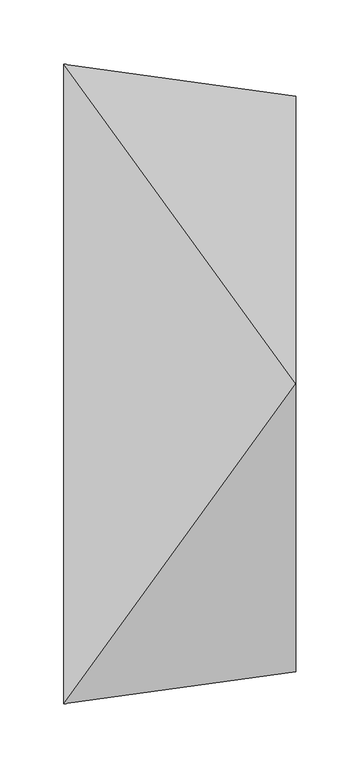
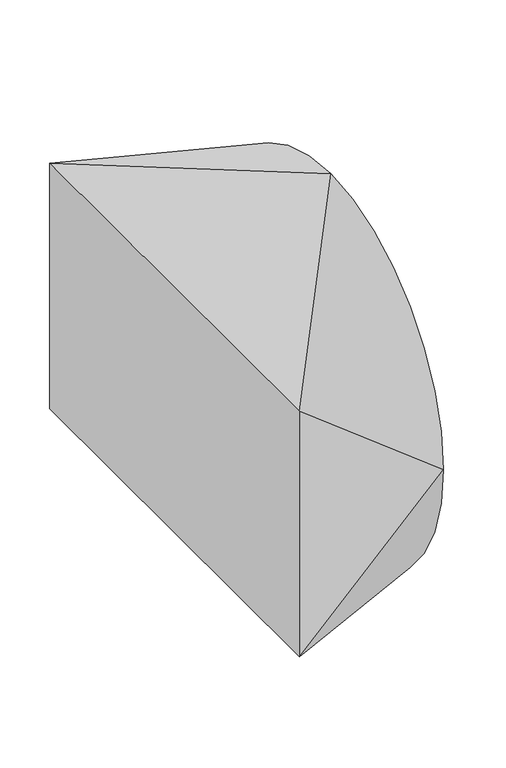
"""IFC4 building model written with IfcOpenShell, lengths in millimetres: duct fitting geometry, M_Transición de rectangular a redondo - Ángulo : EXT_45 graus."""

import ifcopenshell
import ifcopenshell.guid

model = None  # the IFC model being written
_history = None  # IfcOwnerHistory: only IFC2X3 demands one
_inside = {}  # id of a spatial element -> (the spatial element, [elements in it])
_under = {}  # id of a project, library or spatial element -> (it, [spatial elements below it])
_declared = {}  # id of a project -> (the project, [libraries it declares])
_typed = {}  # id of a type object -> (the type object, [elements of that type])
_made_of = {}  # id of a material, layer set ... -> (it, [elements and type objects made of it])


def new_model(schema):
    """Start an empty IFC model of exactly this schema.

    Asked for "IFC4X3", IfcOpenShell would pick the latest addendum, in which some entities
    have other attributes; the version numbers below select the first issue.
    IFC2X3 requires an IfcOwnerHistory on every rooted entity: one is made here for all.
    """
    global model, _history
    if schema == "IFC4X3":
        model = ifcopenshell.file(schema_version=(4, 3, 0, 0))
    else:
        model = ifcopenshell.file(schema=schema)
    _inside.clear()
    _under.clear()
    _declared.clear()
    _typed.clear()
    _made_of.clear()
    _history = None
    if model.schema == "IFC2X3":
        org = make("IfcOrganization", Name="unknown")
        user = make(
            "IfcPersonAndOrganization",
            ThePerson=make("IfcPerson", FamilyName="unknown"),
            TheOrganization=org,
        )
        app = make(
            "IfcApplication",
            ApplicationDeveloper=org,
            Version="unknown",
            ApplicationFullName="unknown",
            ApplicationIdentifier="unknown",
        )
        _history = make(
            "IfcOwnerHistory",
            OwningUser=user,
            OwningApplication=app,
            ChangeAction="ADDED",
            CreationDate=0,
        )
    return model


def make(cls, **values):
    """One entity of the class cls with the attributes given. An attribute that is None is left unset."""
    return model.create_entity(
        cls, **{name: value for name, value in values.items() if value is not None}
    )


def rooted(cls, **values):
    """An entity with a GlobalId (a new one), such as an element, a storey or a relation."""
    return make(cls, GlobalId=ifcopenshell.guid.new(), OwnerHistory=_history, **values)


def si_unit(unit_type, name, prefix=None):
    """IfcSIUnit, for example si_unit("LENGTHUNIT", "METRE", prefix="MILLI")."""
    return make("IfcSIUnit", UnitType=unit_type, Prefix=prefix, Name=name)


def assignment(units):
    """IfcUnitAssignment: the units of a project."""
    return None if units is None else make("IfcUnitAssignment", Units=units)


def point(xyz):
    """IfcCartesianPoint."""
    return None if xyz is None else make("IfcCartesianPoint", Coordinates=xyz)


def direction(xyz):
    """IfcDirection."""
    return None if xyz is None else make("IfcDirection", DirectionRatios=xyz)


def frame(location, z_axis=None, x_axis=None):
    """IfcAxis2Placement3D, a coordinate frame: its origin and axes. An axis left out is left unset."""
    return make(
        "IfcAxis2Placement3D",
        Location=point(location),
        Axis=direction(z_axis),
        RefDirection=direction(x_axis),
    )


def origin():
    """The frame at (0, 0, 0) with its axes left unset."""
    return frame((0.0, 0.0, 0.0))


def place(relative_to, where):
    """IfcLocalPlacement: puts the frame where relative to a parent placement (None: the world)."""
    return make(
        "IfcLocalPlacement", PlacementRelTo=relative_to, RelativePlacement=where
    )


def context(
    kind, dimensions, precision=None, world=None, true_north=None, identifier=None
):
    """IfcGeometricRepresentationContext, for example the 3D "Model" context."""
    return make(
        "IfcGeometricRepresentationContext",
        ContextIdentifier=identifier,
        ContextType=kind,
        CoordinateSpaceDimension=dimensions,
        Precision=precision,
        WorldCoordinateSystem=world,
        TrueNorth=true_north,
    )


def project(units=None, contexts=None):
    """IfcProject with its units and contexts."""
    return rooted(
        "IfcProject",
        Name="project",
        RepresentationContexts=contexts,
        UnitsInContext=assignment(units),
    )


def spatial(cls, under=None, at=None, **own):
    """A site, building, storey or space (cls), placed at a placement, below another one or the project."""
    s = rooted(cls, ObjectPlacement=at, **own)
    if under is not None:
        _under.setdefault(under.id(), (under, []))[1].append(s)
    return s


def circle_curve(where, radius):
    """IfcCircle in the frame where."""
    return make("IfcCircle", Position=where, Radius=radius)


def shape(context_of_items, identifier, shape_type, items):
    """IfcShapeRepresentation: the items that make up one representation, for example the "Body"."""
    return make(
        "IfcShapeRepresentation",
        ContextOfItems=context_of_items,
        RepresentationIdentifier=identifier,
        RepresentationType=shape_type,
        Items=items,
    )


def source(mapping_origin, context_of_items, identifier, shape_type, items):
    """IfcRepresentationMap: a shape defined once, which mapped items show again and again."""
    return make(
        "IfcRepresentationMap",
        MappingOrigin=mapping_origin,
        MappedRepresentation=shape(context_of_items, identifier, shape_type, items),
    )


def transform(
    local_origin,
    x_axis=None,
    y_axis=None,
    z_axis=None,
    scale=None,
    scale2=None,
    scale3=None,
    uniform=True,
):
    """IfcCartesianTransformationOperator3D, or its non-uniform kind. x_axis, y_axis, z_axis: its Axis1, 2, 3."""
    if uniform:
        return make(
            "IfcCartesianTransformationOperator3D",
            Axis1=direction(x_axis),
            Axis2=direction(y_axis),
            LocalOrigin=point(local_origin),
            Scale=scale,
            Axis3=direction(z_axis),
        )
    return make(
        "IfcCartesianTransformationOperator3DnonUniform",
        Axis1=direction(x_axis),
        Axis2=direction(y_axis),
        LocalOrigin=point(local_origin),
        Scale=scale,
        Axis3=direction(z_axis),
        Scale2=scale2,
        Scale3=scale3,
    )


def mapped(mapping_source, mapping_target):
    """IfcMappedItem: shows the shape of a source again, moved by a transform."""
    return make(
        "IfcMappedItem", MappingSource=mapping_source, MappingTarget=mapping_target
    )


def made_of(thing, what):
    """Note that an element or type object is made of a material, layer set ...; save() writes the relation."""
    if what is not None:
        _made_of.setdefault(what.id(), (what, []))[1].append(thing)
    return thing


def element(
    cls,
    number,
    at=None,
    inside=None,
    cuts=None,
    type_object=None,
    material=None,
    context=None,
    identifier="Body",
    shape_type=None,
    held_by="IfcProductDefinitionShape",
    body=None,
    shapes=None,
    **own,
):
    """One element of the class cls, such as IfcWall. Its Tag is "e" and its number.

    at: its placement. inside: the storey or other place that contains it. cuts: it is an
    opening in that element (IfcRelVoidsElement). A single representation is given by context,
    identifier, shape_type and body (its items); several are given by shapes. held_by: the class
    of the entity that holds the representations. save() writes the other relations.
    """
    e = rooted(cls, Tag="e%d" % number, ObjectPlacement=at, **own)
    if body is not None:
        shapes = [shape(context, identifier, shape_type, body)]
    if shapes is not None:
        e.Representation = make(held_by, Representations=shapes)
    if inside is not None:
        _inside.setdefault(inside.id(), (inside, []))[1].append(e)
    if cuts is not None:
        rooted(
            "IfcRelVoidsElement", RelatingBuildingElement=cuts, RelatedOpeningElement=e
        )
    if type_object is not None:
        _typed.setdefault(type_object.id(), (type_object, []))[1].append(e)
    return made_of(e, material)


def aggregate(whole, parts):
    """IfcRelAggregates: a whole, such as a stair, and the parts it consists of."""
    return rooted("IfcRelAggregates", RelatingObject=whole, RelatedObjects=parts)


def save(model, path):
    """Write the relations noted so far, then the file.

    IfcRelAggregates (storeys below a building ...), IfcRelContainedInSpatialStructure (elements
    in a storey), IfcRelDefinesByType, IfcRelAssociatesMaterial and IfcRelDeclares: one each for
    every whole, place, type object, material and project.
    """
    for whole, parts in _under.values():
        aggregate(whole, parts)
    for where, things in _inside.values():
        rooted(
            "IfcRelContainedInSpatialStructure",
            RelatedElements=things,
            RelatingStructure=where,
        )
    for kind, things in _typed.values():
        rooted("IfcRelDefinesByType", RelatedObjects=things, RelatingType=kind)
    for what, things in _made_of.values():
        rooted("IfcRelAssociatesMaterial", RelatedObjects=things, RelatingMaterial=what)
    for by, libraries in _declared.values():
        rooted("IfcRelDeclares", RelatingContext=by, RelatedDefinitions=libraries)
    model.write(path)


def plane_surface(at):
    """IfcPlane: the flat surface through the origin of the frame at, square to its z axis."""
    return make("IfcPlane", Position=at)


def spline_surface(u_degree, v_degree, points, u_multiplicities, v_multiplicities, u_knots, v_knots, weights=None):
    """IfcBSplineSurfaceWithKnots; with weights, IfcRationalBSplineSurfaceWithKnots. points: one row for each step in u."""
    own = dict(
        UDegree=u_degree,
        VDegree=v_degree,
        ControlPointsList=[[point(p) for p in row] for row in points],
        SurfaceForm="UNSPECIFIED",
        UClosed=False,
        VClosed=False,
        SelfIntersect=False,
        UMultiplicities=u_multiplicities,
        VMultiplicities=v_multiplicities,
        UKnots=u_knots,
        VKnots=v_knots,
        KnotSpec="UNSPECIFIED",
    )
    if weights is None:
        return make("IfcBSplineSurfaceWithKnots", **own)
    return make("IfcRationalBSplineSurfaceWithKnots", WeightsData=weights, **own)


def advanced_brep(points, edges, surfaces, faces):
    """IfcAdvancedBrep: a solid bounded by faces that lie on surfaces and meet in shared edges.

    An edge is (start, end): straight between two places in points (the first is 0);
    or (start, end, curve); or (start, end, curve, False) where it runs against its curve.
    A face is (place in surfaces, loops), or (place, loops, False) where it looks against
    its surface's normal. A loop lists edges by number (the first is 1), with a minus sign
    where the edge is run from its end to its start. The first loop is the outer one.
    """
    corners = [point(p) for p in points]
    vertices = [make("IfcVertexPoint", VertexGeometry=c) for c in corners]
    made = []
    for start, end, *more in edges:
        made.append(
            make(
                "IfcEdgeCurve",
                EdgeStart=vertices[start],
                EdgeEnd=vertices[end],
                EdgeGeometry=more[0] if more else make("IfcPolyline", Points=[corners[start], corners[end]]),
                SameSense=more[1] if len(more) > 1 else True,
            )
        )
    hull = []
    for where, loops, *sense in faces:
        bounds = []
        for j, loop in enumerate(loops):
            ring = [make("IfcOrientedEdge", EdgeElement=made[abs(k) - 1], Orientation=k > 0) for k in loop]
            bounds.append(
                make(
                    "IfcFaceOuterBound" if j == 0 else "IfcFaceBound",
                    Bound=make("IfcEdgeLoop", EdgeList=ring),
                    Orientation=True,
                )
            )
        hull.append(make("IfcAdvancedFace", Bounds=bounds, FaceSurface=surfaces[where], SameSense=sense[0] if sense else True))
    return make("IfcAdvancedBrep", Outer=make("IfcClosedShell", CfsFaces=hull))


def duct_fitting_4f1c42b2(model_context):
    return source(origin(), model_context, "Body", "AdvancedBrep", [
        advanced_brep(
        [(181.0660172, 0.0, 225.0), (181.0660172, -225.0, 0.0), (181.0660172, 0.0, -225.0), (181.0660172, 225.0, 0.0), (0.0, 250.0, 150.0), (0.0, 250.0, -150.0), (0.0, -250.0, -150.0), (0.0, -250.0, 150.0)],
        [
            (0, 1, circle_curve(frame((181.0660172, 0.0, 0.0), z_axis=(1.0, 0.0, 0.0), x_axis=(0.0, -1.0, 0.0)), 225.0)),
            (1, 2, circle_curve(frame((181.0660172, 0.0, 0.0), z_axis=(1.0, 0.0, 0.0), x_axis=(0.0, -1.0, 0.0)), 225.0)),
            (2, 3, circle_curve(frame((181.0660172, 0.0, 0.0), z_axis=(1.0, 0.0, 0.0), x_axis=(0.0, -1.0, 0.0)), 225.0)),
            (3, 0, circle_curve(frame((181.0660172, 0.0, 0.0), z_axis=(1.0, 0.0, 0.0), x_axis=(0.0, -1.0, 0.0)), 225.0)),
            (4, 5),
            (5, 6),
            (6, 7),
            (7, 4),
            (3, 4),
            (4, 0),
            (3, 5),
            (2, 5),
            (2, 6),
            (1, 6),
            (1, 7),
            (0, 7),
        ],
        [
            plane_surface(frame((181.0660172, 0.0, 0.0), z_axis=(1.0, 0.0, 0.0), x_axis=(0.0, 0.0, -1.0))),
            plane_surface(frame((0.0, 0.0, 0.0), z_axis=(-1.0, 0.0, 0.0), x_axis=(0.0, 0.0, -1.0))),
            spline_surface(1, 2, [[(0.0, 250.0, 150.0), (0.0, 250.0, 150.0), (0.0, 250.0, 150.0)], [(181.0660172, 0.0, 225.0), (181.0660172, 225.0, 225.0), (181.0660172, 225.0, 0.0)]], [2, 2], [3, 3], [0.0, 1.0], [0.0, 1.0], weights=[[1.0, 0.7071067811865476, 1.0], [1.0, 0.7071067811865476, 1.0]]),
            plane_surface(frame((0.0, 250.0, 0.0), z_axis=(0.13677363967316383, 0.9906023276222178, 0.0), x_axis=(0.0, 0.0, -1.0))),
            spline_surface(1, 2, [[(0.0, 250.0, -150.0), (0.0, 250.0, -150.0), (0.0, 250.0, -150.0)], [(181.0660172, 225.0, 0.0), (181.0660172, 225.0, -225.0), (181.0660172, 0.0, -225.0)]], [2, 2], [3, 3], [0.0, 1.0], [0.0, 1.0], weights=[[1.0, 0.7071067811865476, 1.0], [1.0, 0.7071067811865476, 1.0]]),
            plane_surface(frame((0.0, 0.0, -150.0), z_axis=(-0.3826834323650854, 0.0, -0.9238795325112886), x_axis=(0.0, -1.0, 0.0))),
            spline_surface(1, 2, [[(0.0, -250.0, -150.0), (0.0, -250.0, -150.0), (0.0, -250.0, -150.0)], [(181.0660172, 0.0, -225.0), (181.0660172, -225.0, -225.0), (181.0660172, -225.0, 0.0)]], [2, 2], [3, 3], [0.0, 1.0], [0.0, 1.0], weights=[[1.0, 0.7071067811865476, 1.0], [1.0, 0.7071067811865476, 1.0]]),
            plane_surface(frame((0.0, -250.0, 0.0), z_axis=(0.13677363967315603, -0.9906023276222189, 0.0), x_axis=(0.0, 0.0, 1.0))),
            spline_surface(1, 2, [[(0.0, -250.0, 150.0), (0.0, -250.0, 150.0), (0.0, -250.0, 150.0)], [(181.0660172, -225.0, 0.0), (181.0660172, -225.0, 225.0), (181.0660172, 0.0, 225.0)]], [2, 2], [3, 3], [0.0, 1.0], [0.0, 1.0], weights=[[1.0, 0.7071067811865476, 1.0], [1.0, 0.7071067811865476, 1.0]]),
            plane_surface(frame((0.0, 0.0, 150.0), z_axis=(-0.38268343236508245, 0.0, 0.9238795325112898), x_axis=(0.0, 1.0, 0.0))),
        ],
        [
            (0, [[1, 2, 3, 4]]),
            (1, [[5, 6, 7, 8]]),
            (2, [[9, 10, -4]]),
            (3, [[-9, 11, -5]]),
            (4, [[12, -11, -3]]),
            (5, [[-12, 13, -6]]),
            (6, [[14, -13, -2]]),
            (7, [[-14, 15, -7]]),
            (8, [[16, -15, -1]]),
            (9, [[-16, -10, -8]]),
        ],
    ),
    ])


if __name__ == "__main__":
    model = new_model("IFC4")
    model_context = context("Model", 3, world=origin())
    ifc_project = project(units=[si_unit("LENGTHUNIT", "METRE", prefix="MILLI")], contexts=[model_context])
    site = spatial("IfcSite", under=ifc_project)
    building = spatial("IfcBuilding", under=site)
    placement = place(None, origin())
    duct_fitting_shape = duct_fitting_4f1c42b2(model_context)
    element("IfcDuctFitting", 1, ObjectType="M_Transición de rectangular a redondo - Ángulo : EXT_45 graus", at=placement, inside=building, context=model_context, shape_type="MappedRepresentation", body=[
        mapped(duct_fitting_shape, transform((0.0, 0.0, 0.0), x_axis=(1.0, 0.0, 0.0), y_axis=(0.0, 1.0, 0.0), z_axis=(0.0, 0.0, 1.0))),
    ])
    save(model, "model.ifc")
